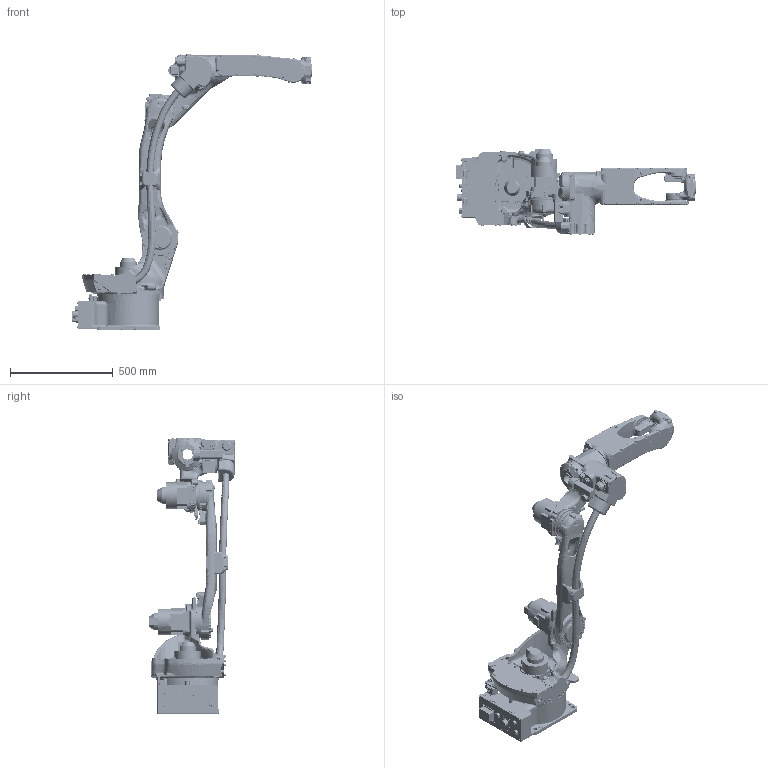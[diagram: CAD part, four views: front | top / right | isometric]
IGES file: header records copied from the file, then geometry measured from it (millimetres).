
Global section: file name: U:\Moto\assy_top_gp12-c00_asm\GP12-C00-Fertig\GP12-C00.igs; native system: NX V12.0; preprocessor: SIEMENS PLM Software NX 12.0; date: 20190307.132814; units: millimetre
Bounding box: 1169.85 x 415.8 x 1345.01 mm (x, y, z)
Surface area: 2795965.3 mm2 (no closed solid volume)
Topology: 0 solids, 0 shells, 8143 faces, 55041 edges, 54951 vertices
Faces by surface type: bspline 8143
